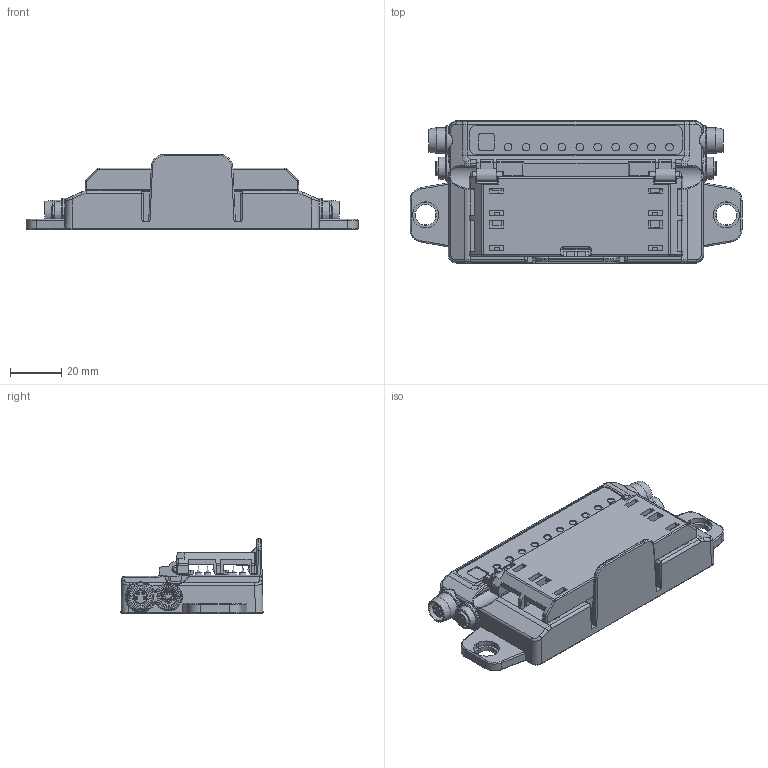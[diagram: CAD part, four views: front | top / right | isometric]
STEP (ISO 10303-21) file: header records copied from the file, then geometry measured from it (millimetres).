
FILE_DESCRIPTION(/* description */ (''),/* implementation_level */ '2;1');
FILE_NAME(/* name */ '内驱IP67-1.5.stp',/* time_stamp */ '2026-03-31T10:05:41+08:00',/* author */ (''),/* organization */ (''),/* preprocessor_version */ 'ST-DEVELOPER v19.4',/* originating_system */ 'SIEMENS PLM Software NX2212.7001',/* authorisation */ '');
FILE_SCHEMA (('AUTOMOTIVE_DESIGN { 1 0 10303 214 3 1 1 1 }'));
Products named in the file (1): 内驱IP67-1.5_stp_objects
Bounding box: 129.63 x 55.48 x 29.3 mm (x, y, z)
Volume: 89642.8 mm3; surface area: 36404.5 mm2
Topology: 10 solids, 44 shells, 2158 faces, 5679 edges, 3678 vertices
Faces by surface type: plane 943, cylinder 849, cone 188, bspline 74, torus 54, revolution 32, sphere 18
Full cylindrical faces by diameter (mm): 0.6 x2, 0.8 x10, 1 x11, 1.06 x10, 1.1 x10, 1.25 x4, 1.3 x10, 1.7 x4, 2.95 x2, 3 x10, 7.15 x2, 7.2 x4, 8 x2, 8.8 x2, 8.85 x2, 9 x2, 10 x2, 10.05 x2
Entity records: 71279 total; most frequent: CARTESIAN_POINT 17195, ORIENTED_EDGE 10748, DIRECTION 9701, EDGE_CURVE 5374, VERTEX_POINT 3592, AXIS2_PLACEMENT_3D 3532, LINE 2605, VECTOR 2605
